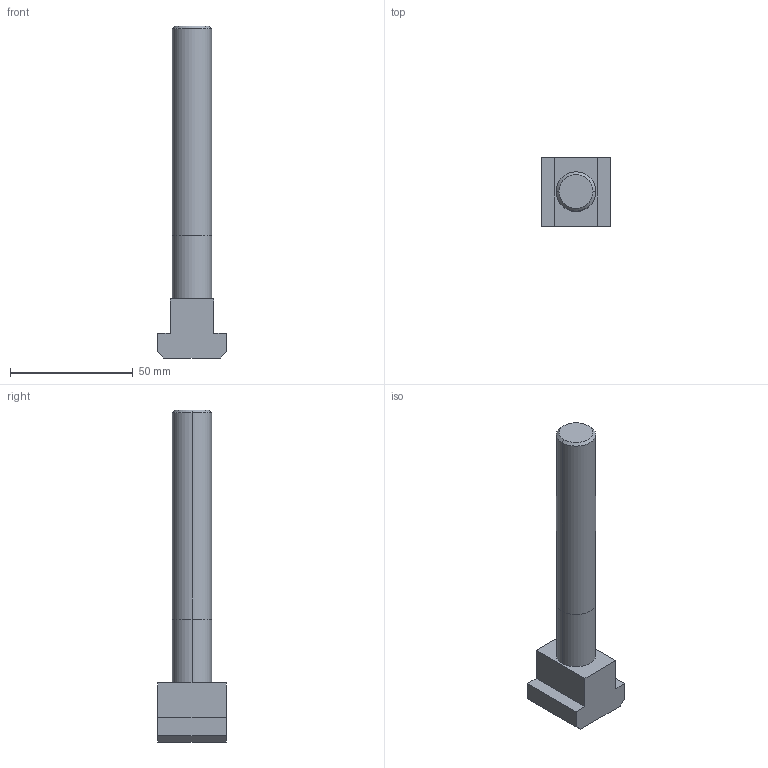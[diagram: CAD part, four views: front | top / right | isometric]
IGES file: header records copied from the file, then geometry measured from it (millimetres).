
Start section: 3D InterOp IGES (v. 2018 1.0.2), Spatial Corp. Copyright (c) 1999-2017.
Global section: file name: HWS_9011_16_18_125.igs; native system: Spatial Corp.; preprocessor: 3D InterOp GENERIC/IGES 3.0; author: Noname; organization: Noname; date: 20191010.134703; units: metre
Bounding box: 28 x 28 x 135 mm (x, y, z)
Surface area: 9419.4 mm2 (no closed solid volume)
Topology: 0 solids, 0 shells, 20 faces, 92 edges, 92 vertices
Faces by surface type: extrusion 14, revolution 6
